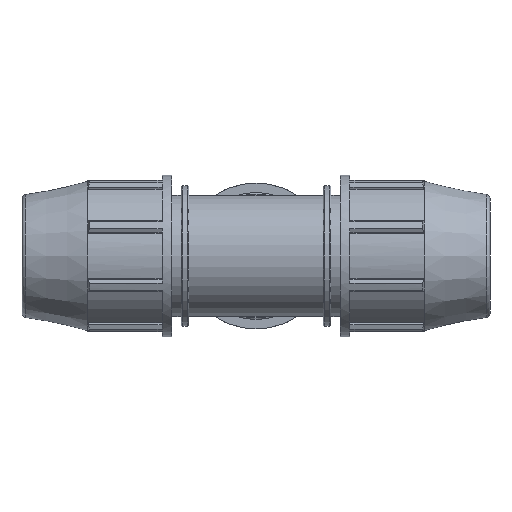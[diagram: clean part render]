
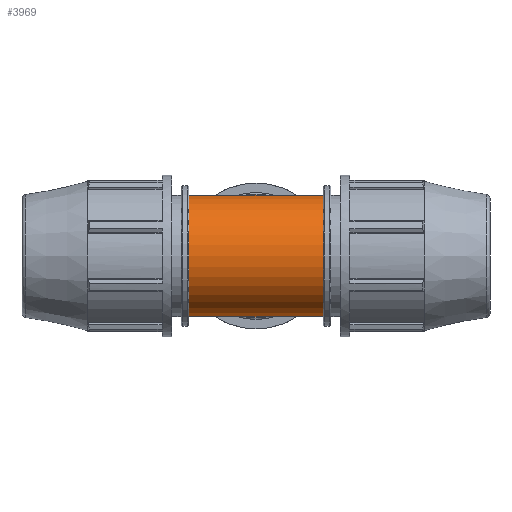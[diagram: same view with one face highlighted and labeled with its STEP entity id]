
A CAD part, front view. The second image highlights one B-rep face of the part: STEP entity #3969.
In plain terms, the highlighted cylindrical face has radius 19.907 mm (diameter 39.814 mm), a full revolution.
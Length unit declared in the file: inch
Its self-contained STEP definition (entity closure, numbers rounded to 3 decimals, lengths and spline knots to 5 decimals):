
#221=FACE_BOUND('',#441,.T.);
#239=FACE_OUTER_BOUND('',#440,.T.);
#440=EDGE_LOOP('',(#2539,#2540,#2541,#2542,#2543,#2544));
#441=EDGE_LOOP('',(#2545,#2546));
#658=B_SPLINE_CURVE_WITH_KNOTS('',3,(#5801,#5802,#5803,#5804,#5805,#5806,
#5807,#5808,#5809,#5810,#5811,#5812,#5813,#5814,#5815,#5816,#5817,#5818),
 .UNSPECIFIED.,.F.,.F.,(4,2,2,2,2,2,2,2,4),(0.,0.39398,0.78796,
1.18195,1.57593,1.94038,2.30484,2.66929,
3.03375),.UNSPECIFIED.);
#659=B_SPLINE_CURVE_WITH_KNOTS('',3,(#5819,#5820,#5821,#5822,#5823,#5824,
#5825,#5826,#5827,#5828,#5829,#5830,#5831,#5832,#5833,#5834,#5835,#5836,
#5837,#5838,#5839,#5840,#5841,#5842,#5843,#5844,#5845,#5846,#5847,#5848,
#5849,#5850,#5851,#5852,#5853,#5854,#5855,#5856,#5857,#5858,#5859,#5860,
#5861,#5862,#5863,#5864,#5865,#5866,#5867,#5868),.UNSPECIFIED.,.F.,.F.,
(4,2,2,2,2,2,2,2,2,2,2,2,2,2,2,2,2,2,2,2,2,2,2,2,4),(3.03375,3.3982,
3.76265,4.12711,4.49156,4.88554,5.27953,
5.67351,6.06749,6.46147,6.85546,7.24944,
7.64342,8.00787,8.37233,8.73678,9.10124,
9.46569,9.83015,10.1946,10.55905,10.95304,
11.34702,11.741,12.13498),.UNSPECIFIED.);
#669=LINE('',#5795,#990);
#990=VECTOR('',#4625,0.78375);
#1314=CIRCLE('',#4195,0.78375);
#1315=CIRCLE('',#4196,0.78375);
#1316=CIRCLE('',#4197,0.78375);
#1317=CIRCLE('',#4198,0.78375);
#1531=VERTEX_POINT('',#5790);
#1532=VERTEX_POINT('',#5791);
#1533=VERTEX_POINT('',#5794);
#1534=VERTEX_POINT('',#5796);
#1535=VERTEX_POINT('',#5799);
#1536=VERTEX_POINT('',#5800);
#1942=EDGE_CURVE('',#1531,#1532,#1314,.T.);
#1943=EDGE_CURVE('',#1532,#1531,#1315,.T.);
#1944=EDGE_CURVE('',#1532,#1533,#669,.T.);
#1945=EDGE_CURVE('',#1533,#1534,#1316,.T.);
#1946=EDGE_CURVE('',#1534,#1533,#1317,.T.);
#1947=EDGE_CURVE('',#1535,#1536,#658,.T.);
#1948=EDGE_CURVE('',#1536,#1535,#659,.T.);
#2539=ORIENTED_EDGE('',*,*,#1942,.F.);
#2540=ORIENTED_EDGE('',*,*,#1943,.F.);
#2541=ORIENTED_EDGE('',*,*,#1944,.T.);
#2542=ORIENTED_EDGE('',*,*,#1945,.T.);
#2543=ORIENTED_EDGE('',*,*,#1946,.T.);
#2544=ORIENTED_EDGE('',*,*,#1944,.F.);
#2545=ORIENTED_EDGE('',*,*,#1947,.F.);
#2546=ORIENTED_EDGE('',*,*,#1948,.F.);
#3725=CYLINDRICAL_SURFACE('',#4194,0.78375);
#3969=ADVANCED_FACE('',(#239,#221),#3725,.T.);
#4194=AXIS2_PLACEMENT_3D('',#5789,#4619,#4620);
#4195=AXIS2_PLACEMENT_3D('',#5792,#4621,#4622);
#4196=AXIS2_PLACEMENT_3D('',#5793,#4623,#4624);
#4197=AXIS2_PLACEMENT_3D('',#5797,#4626,#4627);
#4198=AXIS2_PLACEMENT_3D('',#5798,#4628,#4629);
#4619=DIRECTION('center_axis',(1.,0.,0.));
#4620=DIRECTION('ref_axis',(0.,1.,0.));
#4621=DIRECTION('center_axis',(1.,0.,0.));
#4622=DIRECTION('ref_axis',(0.,0.,-1.));
#4623=DIRECTION('center_axis',(1.,0.,0.));
#4624=DIRECTION('ref_axis',(0.,0.,-1.));
#4625=DIRECTION('',(-1.,0.,0.));
#4626=DIRECTION('center_axis',(1.,0.,0.));
#4627=DIRECTION('ref_axis',(0.,0.,-1.));
#4628=DIRECTION('center_axis',(1.,0.,0.));
#4629=DIRECTION('ref_axis',(0.,0.,-1.));
#5789=CARTESIAN_POINT('Origin',(0.6161,0.,0.));
#5790=CARTESIAN_POINT('',(0.8686,0.78375,0.));
#5791=CARTESIAN_POINT('',(0.8686,-0.78375,0.));
#5792=CARTESIAN_POINT('Origin',(0.8686,0.,0.));
#5793=CARTESIAN_POINT('Origin',(0.8686,0.,0.));
#5794=CARTESIAN_POINT('',(-0.8686,-0.78375,0.));
#5795=CARTESIAN_POINT('',(0.6161,-0.78375,0.));
#5796=CARTESIAN_POINT('',(-0.8686,0.78375,0.));
#5797=CARTESIAN_POINT('Origin',(-0.8686,0.,0.));
#5798=CARTESIAN_POINT('Origin',(-0.8686,0.,0.));
#5799=CARTESIAN_POINT('',(0.,0.33457,0.70875));
#5800=CARTESIAN_POINT('',(0.70875,0.78375,0.));
#5801=CARTESIAN_POINT('Ctrl Pts',(0.,0.33457,
0.70875));
#5802=CARTESIAN_POINT('Ctrl Pts',(0.0517,0.33457,
0.70875));
#5803=CARTESIAN_POINT('Ctrl Pts',(0.09981,0.34659,0.70325));
#5804=CARTESIAN_POINT('Ctrl Pts',(0.19162,0.38326,0.68397));
#5805=CARTESIAN_POINT('Ctrl Pts',(0.23536,0.40778,0.67009));
#5806=CARTESIAN_POINT('Ctrl Pts',(0.31939,0.46141,0.63435));
#5807=CARTESIAN_POINT('Ctrl Pts',(0.35951,0.49051,0.61248));
#5808=CARTESIAN_POINT('Ctrl Pts',(0.43466,0.54798,0.56166));
#5809=CARTESIAN_POINT('Ctrl Pts',(0.46965,0.57637,0.53268));
#5810=CARTESIAN_POINT('Ctrl Pts',(0.53031,0.62682,0.47201));
#5811=CARTESIAN_POINT('Ctrl Pts',(0.55851,0.65093,0.43865));
#5812=CARTESIAN_POINT('Ctrl Pts',(0.60947,0.69514,0.36455));
#5813=CARTESIAN_POINT('Ctrl Pts',(0.63222,0.71524,0.32381));
#5814=CARTESIAN_POINT('Ctrl Pts',(0.6696,0.74848,0.23706));
#5815=CARTESIAN_POINT('Ctrl Pts',(0.68425,0.76166,0.19095));
#5816=CARTESIAN_POINT('Ctrl Pts',(0.70383,0.77929,0.09633));
#5817=CARTESIAN_POINT('Ctrl Pts',(0.70875,0.78375,0.04783));
#5818=CARTESIAN_POINT('Ctrl Pts',(0.70875,0.78375,0.));
#5819=CARTESIAN_POINT('Ctrl Pts',(0.70875,0.78375,0.));
#5820=CARTESIAN_POINT('Ctrl Pts',(0.70875,0.78375,-0.04783));
#5821=CARTESIAN_POINT('Ctrl Pts',(0.70383,0.77929,-0.09633));
#5822=CARTESIAN_POINT('Ctrl Pts',(0.68425,0.76166,-0.19095));
#5823=CARTESIAN_POINT('Ctrl Pts',(0.6696,0.74848,-0.23706));
#5824=CARTESIAN_POINT('Ctrl Pts',(0.63222,0.71524,-0.32381));
#5825=CARTESIAN_POINT('Ctrl Pts',(0.60947,0.69514,-0.36455));
#5826=CARTESIAN_POINT('Ctrl Pts',(0.55851,0.65093,-0.43865));
#5827=CARTESIAN_POINT('Ctrl Pts',(0.53031,0.62682,-0.47201));
#5828=CARTESIAN_POINT('Ctrl Pts',(0.46965,0.57637,-0.53268));
#5829=CARTESIAN_POINT('Ctrl Pts',(0.43466,0.54798,-0.56166));
#5830=CARTESIAN_POINT('Ctrl Pts',(0.35951,0.49051,-0.61248));
#5831=CARTESIAN_POINT('Ctrl Pts',(0.31939,0.46141,-0.63435));
#5832=CARTESIAN_POINT('Ctrl Pts',(0.23536,0.40778,-0.67009));
#5833=CARTESIAN_POINT('Ctrl Pts',(0.19162,0.38326,-0.68397));
#5834=CARTESIAN_POINT('Ctrl Pts',(0.09981,0.34659,-0.70325));
#5835=CARTESIAN_POINT('Ctrl Pts',(0.0517,0.33457,
-0.70875));
#5836=CARTESIAN_POINT('Ctrl Pts',(-0.0517,0.33457,
-0.70875));
#5837=CARTESIAN_POINT('Ctrl Pts',(-0.09981,0.34659,
-0.70325));
#5838=CARTESIAN_POINT('Ctrl Pts',(-0.19162,0.38326,
-0.68397));
#5839=CARTESIAN_POINT('Ctrl Pts',(-0.23536,0.40778,
-0.67009));
#5840=CARTESIAN_POINT('Ctrl Pts',(-0.31939,0.46141,
-0.63435));
#5841=CARTESIAN_POINT('Ctrl Pts',(-0.35951,0.49051,
-0.61248));
#5842=CARTESIAN_POINT('Ctrl Pts',(-0.43466,0.54798,
-0.56166));
#5843=CARTESIAN_POINT('Ctrl Pts',(-0.46965,0.57637,
-0.53268));
#5844=CARTESIAN_POINT('Ctrl Pts',(-0.53031,0.62682,
-0.47201));
#5845=CARTESIAN_POINT('Ctrl Pts',(-0.55851,0.65093,
-0.43865));
#5846=CARTESIAN_POINT('Ctrl Pts',(-0.60947,0.69514,
-0.36455));
#5847=CARTESIAN_POINT('Ctrl Pts',(-0.63222,0.71524,
-0.32381));
#5848=CARTESIAN_POINT('Ctrl Pts',(-0.6696,0.74848,
-0.23706));
#5849=CARTESIAN_POINT('Ctrl Pts',(-0.68425,0.76166,
-0.19095));
#5850=CARTESIAN_POINT('Ctrl Pts',(-0.70383,0.77929,
-0.09633));
#5851=CARTESIAN_POINT('Ctrl Pts',(-0.70875,0.78375,-0.04783));
#5852=CARTESIAN_POINT('Ctrl Pts',(-0.70875,0.78375,0.04783));
#5853=CARTESIAN_POINT('Ctrl Pts',(-0.70383,0.77929,
0.09633));
#5854=CARTESIAN_POINT('Ctrl Pts',(-0.68425,0.76166,
0.19095));
#5855=CARTESIAN_POINT('Ctrl Pts',(-0.6696,0.74848,
0.23706));
#5856=CARTESIAN_POINT('Ctrl Pts',(-0.63222,0.71524,
0.32381));
#5857=CARTESIAN_POINT('Ctrl Pts',(-0.60947,0.69514,
0.36455));
#5858=CARTESIAN_POINT('Ctrl Pts',(-0.55851,0.65093,
0.43865));
#5859=CARTESIAN_POINT('Ctrl Pts',(-0.53031,0.62682,
0.47201));
#5860=CARTESIAN_POINT('Ctrl Pts',(-0.46965,0.57637,
0.53268));
#5861=CARTESIAN_POINT('Ctrl Pts',(-0.43466,0.54798,
0.56166));
#5862=CARTESIAN_POINT('Ctrl Pts',(-0.35951,0.49051,
0.61248));
#5863=CARTESIAN_POINT('Ctrl Pts',(-0.31939,0.46141,
0.63435));
#5864=CARTESIAN_POINT('Ctrl Pts',(-0.23536,0.40778,
0.67009));
#5865=CARTESIAN_POINT('Ctrl Pts',(-0.19162,0.38326,
0.68397));
#5866=CARTESIAN_POINT('Ctrl Pts',(-0.09981,0.34659,
0.70325));
#5867=CARTESIAN_POINT('Ctrl Pts',(-0.0517,0.33457,
0.70875));
#5868=CARTESIAN_POINT('Ctrl Pts',(0.,0.33457,
0.70875));
